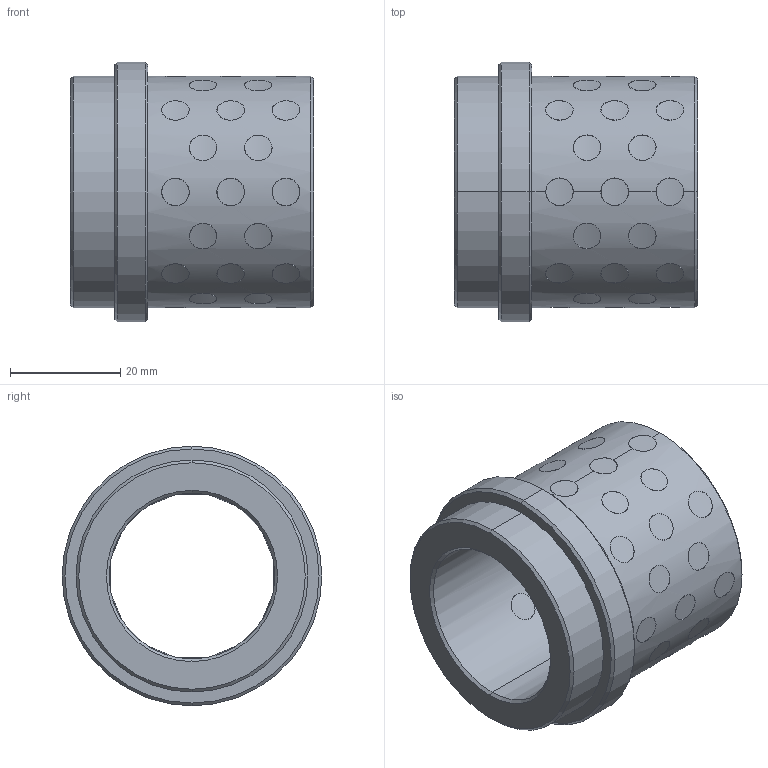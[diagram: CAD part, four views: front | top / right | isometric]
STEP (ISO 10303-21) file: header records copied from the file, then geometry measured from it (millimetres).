
FILE_DESCRIPTION((''),'2;1');
FILE_NAME('G31230036','2017-12-30T',('MANU'),(''),'PRO/ENGINEER BY PARAMETRIC TECHNOLOGY CORPORATION, 2012130','PRO/ENGINEER BY PARAMETRIC TECHNOLOGY CORPORATION, 2012130','');
FILE_SCHEMA(('CONFIG_CONTROL_DESIGN'));
Length unit declared in the file: millimetre
Products named in the file (1): G31230036
Bounding box: 44 x 47 x 47 mm (x, y, z)
Volume: 31767.3 mm3; surface area: 19391.3 mm2
Topology: 41 solids, 41 shells, 264 faces, 564 edges, 372 vertices
Faces by surface type: cylinder 248, cone 12, plane 4
Entity records: 12474 total; most frequent: CARTESIAN_POINT 7260, ORIENTED_EDGE 1128, DIRECTION 776, EDGE_CURVE 564, VERTEX_POINT 372, B_SPLINE_CURVE_WITH_KNOTS 344, EDGE_LOOP 336, AXIS2_PLACEMENT_3D 292
